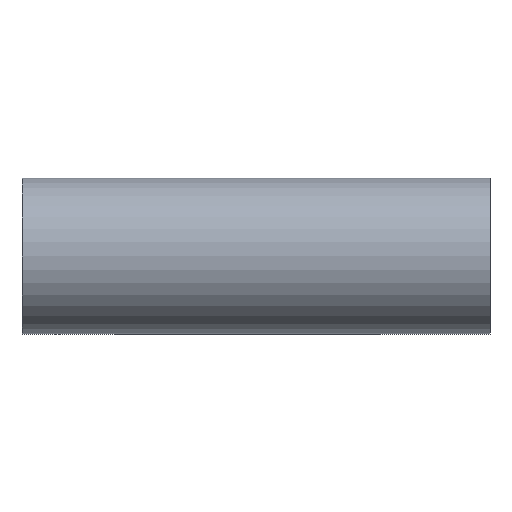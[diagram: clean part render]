
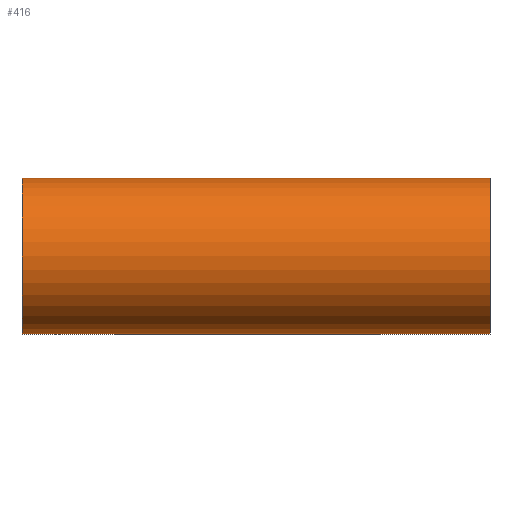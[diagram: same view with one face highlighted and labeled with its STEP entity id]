
A CAD part, front view. The second image highlights one B-rep face of the part: STEP entity #416.
In plain terms, the highlighted cylindrical face has radius 76.2 mm (diameter 152.4 mm), a partial arc.
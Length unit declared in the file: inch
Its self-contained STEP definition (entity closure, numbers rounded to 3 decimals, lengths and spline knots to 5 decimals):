
#1 = FACE_OUTER_BOUND ( 'NONE', #329, .T. ) ;
#3 = ORIENTED_EDGE ( 'NONE', *, *, #278, .F. ) ;
#4 = CARTESIAN_POINT ( 'NONE',  ( -3.5, 0., 0. ) ) ;
#14 = AXIS2_PLACEMENT_3D ( 'NONE', #95, #358, #142 ) ;
#31 = CYLINDRICAL_SURFACE ( 'NONE', #268, 3. ) ;
#39 = ORIENTED_EDGE ( 'NONE', *, *, #435, .T. ) ;
#40 = VERTEX_POINT ( 'NONE', #218 ) ;
#42 = DIRECTION ( 'NONE',  ( 1., 0., 0. ) ) ;
#45 = CARTESIAN_POINT ( 'NONE',  ( -3.5, 0., -3. ) ) ;
#47 = ORIENTED_EDGE ( 'NONE', *, *, #356, .F. ) ;
#53 = VECTOR ( 'NONE', #102, 39.37008 ) ;
#75 = EDGE_CURVE ( 'NONE', #466, #265, #405, .T. ) ;
#84 = DIRECTION ( 'NONE',  ( 1., 0., 0. ) ) ;
#92 = LINE ( 'NONE', #45, #376 ) ;
#95 = CARTESIAN_POINT ( 'NONE',  ( 14.5, 0., 0. ) ) ;
#102 = DIRECTION ( 'NONE',  ( 1., 0., 0. ) ) ;
#115 = VERTEX_POINT ( 'NONE', #289 ) ;
#142 = DIRECTION ( 'NONE',  ( 0., 0., -1. ) ) ;
#146 = CARTESIAN_POINT ( 'NONE',  ( -3.5, 0., 3. ) ) ;
#157 = EDGE_CURVE ( 'NONE', #466, #440, #311, .T. ) ;
#168 = DIRECTION ( 'NONE',  ( 1., 0., 0. ) ) ;
#188 = CARTESIAN_POINT ( 'NONE',  ( -3.5, 0., 0. ) ) ;
#199 = LINE ( 'NONE', #327, #53 ) ;
#205 = CARTESIAN_POINT ( 'NONE',  ( -3.5, 0., 3. ) ) ;
#215 = VERTEX_POINT ( 'NONE', #388 ) ;
#218 = CARTESIAN_POINT ( 'NONE',  ( 14.5, 0., -3. ) ) ;
#229 = DIRECTION ( 'NONE',  ( 0., 0., -1. ) ) ;
#237 = ORIENTED_EDGE ( 'NONE', *, *, #157, .T. ) ;
#265 = VERTEX_POINT ( 'NONE', #394 ) ;
#268 = AXIS2_PLACEMENT_3D ( 'NONE', #4, #84, #309 ) ;
#278 = EDGE_CURVE ( 'NONE', #215, #40, #403, .T. ) ;
#279 = AXIS2_PLACEMENT_3D ( 'NONE', #188, #439, #229 ) ;
#289 = CARTESIAN_POINT ( 'NONE',  ( 0., 0., -3. ) ) ;
#291 = CARTESIAN_POINT ( 'NONE',  ( -3.5, 0., -3. ) ) ;
#309 = DIRECTION ( 'NONE',  ( 0., 0., -1. ) ) ;
#311 = CIRCLE ( 'NONE', #279, 3. ) ;
#327 = CARTESIAN_POINT ( 'NONE',  ( -3.5, 0., 3. ) ) ;
#329 = EDGE_LOOP ( 'NONE', ( #455, #237, #39, #348, #3, #47 ) ) ;
#334 = VECTOR ( 'NONE', #42, 39.37008 ) ;
#345 = CARTESIAN_POINT ( 'NONE',  ( -3.5, 0., -3. ) ) ;
#348 = ORIENTED_EDGE ( 'NONE', *, *, #408, .T. ) ;
#356 = EDGE_CURVE ( 'NONE', #265, #215, #199, .T. ) ;
#358 = DIRECTION ( 'NONE',  ( 1., 0., 0. ) ) ;
#376 = VECTOR ( 'NONE', #168, 39.37008 ) ;
#388 = CARTESIAN_POINT ( 'NONE',  ( 14.5, 0., 3. ) ) ;
#392 = VECTOR ( 'NONE', #468, 39.37008 ) ;
#394 = CARTESIAN_POINT ( 'NONE',  ( 0., 0., 3. ) ) ;
#403 = CIRCLE ( 'NONE', #14, 3. ) ;
#405 = LINE ( 'NONE', #146, #392 ) ;
#408 = EDGE_CURVE ( 'NONE', #115, #40, #412, .T. ) ;
#412 = LINE ( 'NONE', #291, #334 ) ;
#416 = ADVANCED_FACE ( 'NONE', ( #1 ), #31, .T. ) ;
#435 = EDGE_CURVE ( 'NONE', #440, #115, #92, .T. ) ;
#439 = DIRECTION ( 'NONE',  ( 1., 0., 0. ) ) ;
#440 = VERTEX_POINT ( 'NONE', #345 ) ;
#455 = ORIENTED_EDGE ( 'NONE', *, *, #75, .F. ) ;
#466 = VERTEX_POINT ( 'NONE', #205 ) ;
#468 = DIRECTION ( 'NONE',  ( 1., 0., 0. ) ) ;
